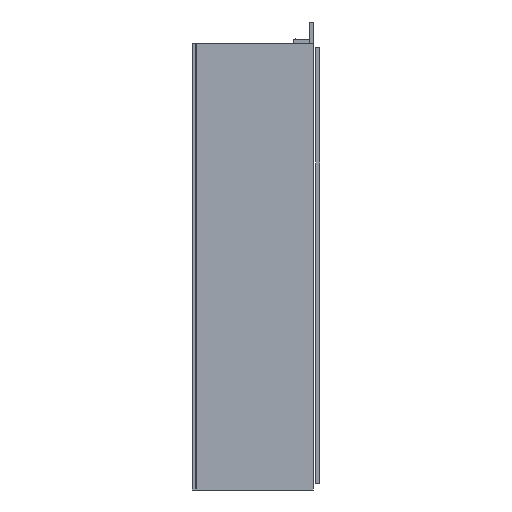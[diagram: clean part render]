
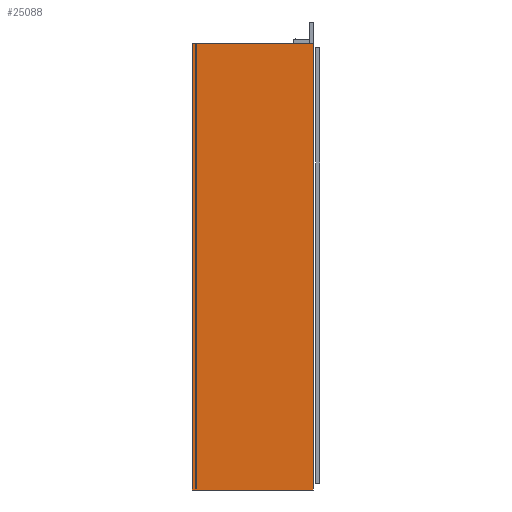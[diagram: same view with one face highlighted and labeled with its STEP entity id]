
A CAD part, left-side view. The second image highlights one B-rep face of the part: STEP entity #25088.
In plain terms, the highlighted planar face has unit normal (-1, 0, 0).
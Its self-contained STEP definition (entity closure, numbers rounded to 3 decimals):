
#25088=ADVANCED_FACE('',(#42474),#42475,.T.);
#42474=FACE_OUTER_BOUND('',#68614,.T.);
#42475=PLANE('',#68615);
#68614=EDGE_LOOP('',(#78368,#78369,#78370,#78371));
#68615=AXIS2_PLACEMENT_3D('',#78372,#78373,#78374);
#78368=ORIENTED_EDGE('',*,*,#98014,.F.);
#78369=ORIENTED_EDGE('',*,*,#98012,.T.);
#78370=ORIENTED_EDGE('',*,*,#98001,.F.);
#78371=ORIENTED_EDGE('',*,*,#98015,.F.);
#78372=CARTESIAN_POINT('',(0.0,599.,0.0));
#78373=DIRECTION('',(-1.0,0.0,0.0));
#78374=DIRECTION('',(0.0,-1.0,0.0));
#98001=EDGE_CURVE('',#109815,#109817,#109818,.T.);
#98012=EDGE_CURVE('',#109831,#109817,#109833,.T.);
#98014=EDGE_CURVE('',#109831,#109835,#109836,.T.);
#98015=EDGE_CURVE('',#109835,#109815,#109837,.T.);
#109815=VERTEX_POINT('',#112276);
#109817=VERTEX_POINT('',#112279);
#109818=LINE('',#112280,#112281);
#109831=VERTEX_POINT('',#112300);
#109833=LINE('',#112303,#112304);
#109835=VERTEX_POINT('',#112306);
#109836=LINE('',#112307,#112308);
#109837=LINE('',#112309,#112310);
#112276=CARTESIAN_POINT('',(0.0,599.,2100.0));
#112279=CARTESIAN_POINT('',(0.0,29.,2100.0));
#112280=CARTESIAN_POINT('',(0.0,99.,2100.0));
#112281=VECTOR('',#115569,1.0);
#112300=CARTESIAN_POINT('',(0.0,29.,0.0));
#112303=CARTESIAN_POINT('',(0.0,29.,0.0));
#112304=VECTOR('',#115577,1.0);
#112306=CARTESIAN_POINT('',(0.0,599.,0.0));
#112307=CARTESIAN_POINT('',(0.0,99.,0.0));
#112308=VECTOR('',#115578,1.0);
#112309=CARTESIAN_POINT('',(0.0,599.,0.0));
#112310=VECTOR('',#115579,1.0);
#115569=DIRECTION('',(0.0,-1.0,0.0));
#115577=DIRECTION('',(0.0,0.0,1.0));
#115578=DIRECTION('',(0.0,1.0,0.0));
#115579=DIRECTION('',(0.0,0.0,1.0));
